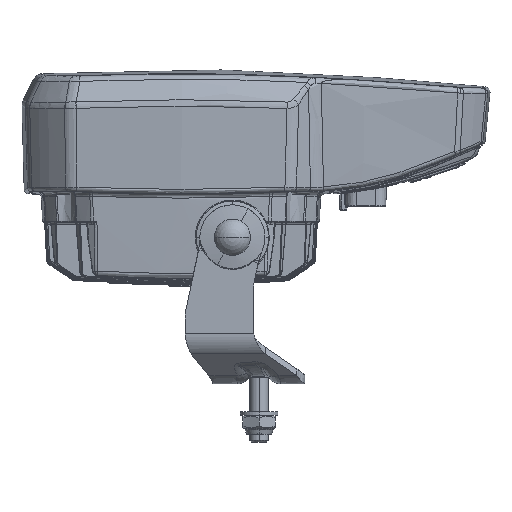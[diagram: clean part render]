
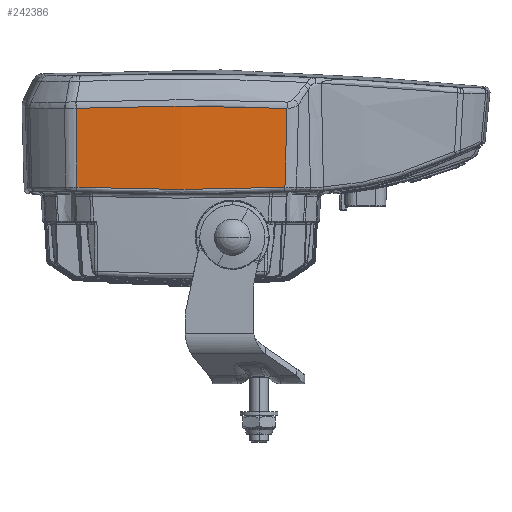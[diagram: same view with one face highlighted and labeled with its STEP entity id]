
A CAD part, left-side view. The second image highlights one B-rep face of the part: STEP entity #242386.
In plain terms, the highlighted conical face has half-angle 1.5 degrees and reference radius 857.5 mm.
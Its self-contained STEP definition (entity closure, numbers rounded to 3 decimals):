
#242340=AXIS2_PLACEMENT_3D('Cone Axis2P3D',#242337,#242338,#242339) ;
#220708=CARTESIAN_POINT('Vertex',(-80.587,-54.571,-59.783)) ;
#225084=CARTESIAN_POINT('Vertex',(-80.586,54.586,-59.783)) ;
#232559=CARTESIAN_POINT('Vertex',(-81.605,-55.628,-18.362)) ;
#232563=CARTESIAN_POINT('Control Point',(-80.587,-54.571,-59.783)) ;
#232564=CARTESIAN_POINT('Control Point',(-80.791,-54.783,-51.499)) ;
#232565=CARTESIAN_POINT('Control Point',(-80.994,-54.994,-43.215)) ;
#232566=CARTESIAN_POINT('Control Point',(-81.198,-55.205,-34.93)) ;
#232567=CARTESIAN_POINT('Control Point',(-81.402,-55.417,-26.646)) ;
#232568=CARTESIAN_POINT('Control Point',(-81.605,-55.628,-18.362)) ;
#232615=CARTESIAN_POINT('Control Point',(-80.587,-54.571,-59.783)) ;
#232616=CARTESIAN_POINT('Control Point',(-81.955,-32.78,-60.683)) ;
#232617=CARTESIAN_POINT('Control Point',(-82.641,-10.928,-61.133)) ;
#232618=CARTESIAN_POINT('Control Point',(-82.641,10.943,-61.133)) ;
#232619=CARTESIAN_POINT('Control Point',(-81.954,32.794,-60.683)) ;
#232620=CARTESIAN_POINT('Control Point',(-80.586,54.586,-59.783)) ;
#235734=CARTESIAN_POINT('Control Point',(-81.648,54.992,-18.323)) ;
#235735=CARTESIAN_POINT('Control Point',(-81.435,54.911,-26.615)) ;
#235736=CARTESIAN_POINT('Control Point',(-81.223,54.83,-34.907)) ;
#235737=CARTESIAN_POINT('Control Point',(-81.011,54.749,-43.199)) ;
#235738=CARTESIAN_POINT('Control Point',(-80.798,54.667,-51.491)) ;
#235739=CARTESIAN_POINT('Control Point',(-80.586,54.586,-59.783)) ;
#235740=CARTESIAN_POINT('Vertex',(-81.648,54.992,-18.323)) ;
#242337=CARTESIAN_POINT('Axis2P3D Location',(774.,0.,-15.)) ;
#242343=CARTESIAN_POINT('Control Point',(-81.605,-55.628,-18.362)) ;
#242344=CARTESIAN_POINT('Control Point',(-81.628,-55.294,-18.347)) ;
#242345=CARTESIAN_POINT('Control Point',(-81.65,-54.96,-18.331)) ;
#242346=CARTESIAN_POINT('Control Point',(-81.671,-54.625,-18.318)) ;
#242347=CARTESIAN_POINT('Control Point',(-81.715,-53.955,-18.289)) ;
#242348=CARTESIAN_POINT('Control Point',(-81.758,-53.283,-18.261)) ;
#242349=CARTESIAN_POINT('Control Point',(-81.779,-52.946,-18.246)) ;
#242350=CARTESIAN_POINT('Control Point',(-81.842,-51.936,-18.204)) ;
#242351=CARTESIAN_POINT('Control Point',(-81.904,-50.923,-18.163)) ;
#242352=CARTESIAN_POINT('Control Point',(-81.945,-50.246,-18.136)) ;
#242353=CARTESIAN_POINT('Control Point',(-82.065,-48.211,-18.056)) ;
#242354=CARTESIAN_POINT('Control Point',(-82.18,-46.165,-17.979)) ;
#242355=CARTESIAN_POINT('Control Point',(-82.254,-44.797,-17.93)) ;
#242356=CARTESIAN_POINT('Control Point',(-82.468,-40.676,-17.787)) ;
#242357=CARTESIAN_POINT('Control Point',(-82.659,-36.518,-17.661)) ;
#242358=CARTESIAN_POINT('Control Point',(-82.775,-33.731,-17.584)) ;
#242359=CARTESIAN_POINT('Control Point',(-82.972,-28.497,-17.455)) ;
#242360=CARTESIAN_POINT('Control Point',(-83.129,-23.224,-17.353)) ;
#242361=CARTESIAN_POINT('Control Point',(-83.193,-20.766,-17.311)) ;
#242362=CARTESIAN_POINT('Control Point',(-83.495,-7.353,-17.117)) ;
#242363=CARTESIAN_POINT('Control Point',(-83.53,6.215,-17.096)) ;
#242364=CARTESIAN_POINT('Control Point',(-83.375,17.325,-17.198)) ;
#242365=CARTESIAN_POINT('Control Point',(-82.941,31.545,-17.479)) ;
#242366=CARTESIAN_POINT('Control Point',(-82.216,45.638,-17.951)) ;
#242367=CARTESIAN_POINT('Control Point',(-82.042,48.737,-18.064)) ;
#242368=CARTESIAN_POINT('Control Point',(-81.854,51.827,-18.186)) ;
#242369=CARTESIAN_POINT('Control Point',(-81.653,54.907,-18.317)) ;
#242370=CARTESIAN_POINT('Vertex',(-81.653,54.907,-18.317)) ;
#242374=CARTESIAN_POINT('Control Point',(-81.653,54.907,-18.317)) ;
#242375=CARTESIAN_POINT('Control Point',(-81.651,54.936,-18.318)) ;
#242376=CARTESIAN_POINT('Control Point',(-81.65,54.964,-18.32)) ;
#242377=CARTESIAN_POINT('Control Point',(-81.648,54.992,-18.323)) ;
#242338=DIRECTION('Axis2P3D Direction',(0.,0.,1.)) ;
#242339=DIRECTION('Axis2P3D XDirection',(1.,-0.002,0.)) ;
#242380=ORIENTED_EDGE('',*,*,#232569,.T.) ;
#242381=ORIENTED_EDGE('',*,*,#242372,.F.) ;
#242382=ORIENTED_EDGE('',*,*,#242378,.F.) ;
#242383=ORIENTED_EDGE('',*,*,#235742,.F.) ;
#242384=ORIENTED_EDGE('',*,*,#232621,.T.) ;
#242386=ADVANCED_FACE('Housing_',(#242385),#242341,.T.) ;
#232562=B_SPLINE_CURVE_WITH_KNOTS('',5,(#232563,#232564,#232565,#232566,#232567,#232568),.UNSPECIFIED.,.F.,.U.,(6,6),(19.861,78.478),.UNSPECIFIED.) ;
#232614=B_SPLINE_CURVE_WITH_KNOTS('',5,(#232615,#232616,#232617,#232618,#232619,#232620),.UNSPECIFIED.,.F.,.U.,(6,6),(223.403,377.94),.UNSPECIFIED.) ;
#235733=B_SPLINE_CURVE_WITH_KNOTS('',5,(#235734,#235735,#235736,#235737,#235738,#235739),.UNSPECIFIED.,.F.,.U.,(6,6),(17.678,76.335),.UNSPECIFIED.) ;
#242342=B_SPLINE_CURVE_WITH_KNOTS('',5,(#242343,#242344,#242345,#242346,#242347,#242348,#242349,#242350,#242351,#242352,#242353,#242354,#242355,#242356,#242357,#242358,#242359,#242360,#242361,#242362,#242363,#242364,#242365,#242366,#242367,#242368,#242369),.UNSPECIFIED.,.F.,.U.,(6,3,3,3,3,3,3,3,6),(248.25,251.317,254.385,260.519,272.788,297.325,318.644,413.352,440.126),.UNSPECIFIED.) ;
#242373=B_SPLINE_CURVE_WITH_KNOTS('',3,(#242374,#242375,#242376,#242377),.UNSPECIFIED.,.F.,.U.,(4,4),(26.082,26.58),.UNSPECIFIED.) ;
#242341=CONICAL_SURFACE('Cone',#242340,857.5,0.026) ;
#232569=EDGE_CURVE('',#220709,#232560,#232562,.T.) ;
#232621=EDGE_CURVE('',#225085,#220709,#232614,.F.) ;
#235742=EDGE_CURVE('',#225085,#235741,#235733,.F.) ;
#242372=EDGE_CURVE('',#242371,#232560,#242342,.F.) ;
#242378=EDGE_CURVE('',#235741,#242371,#242373,.F.) ;
#242379=EDGE_LOOP('',(#242380,#242381,#242382,#242383,#242384)) ;
#242385=FACE_OUTER_BOUND('',#242379,.T.) ;
#220709=VERTEX_POINT('',#220708) ;
#225085=VERTEX_POINT('',#225084) ;
#232560=VERTEX_POINT('',#232559) ;
#235741=VERTEX_POINT('',#235740) ;
#242371=VERTEX_POINT('',#242370) ;
